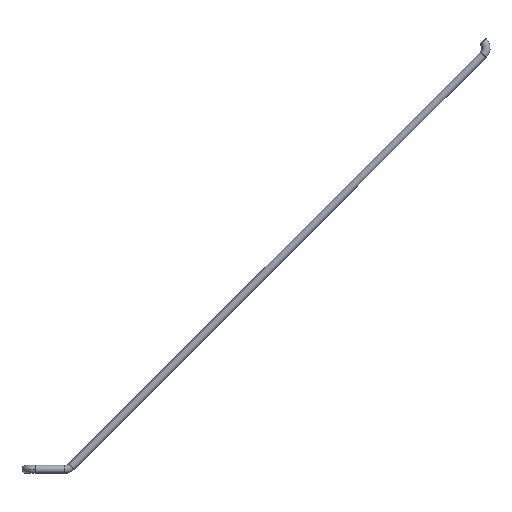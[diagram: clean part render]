
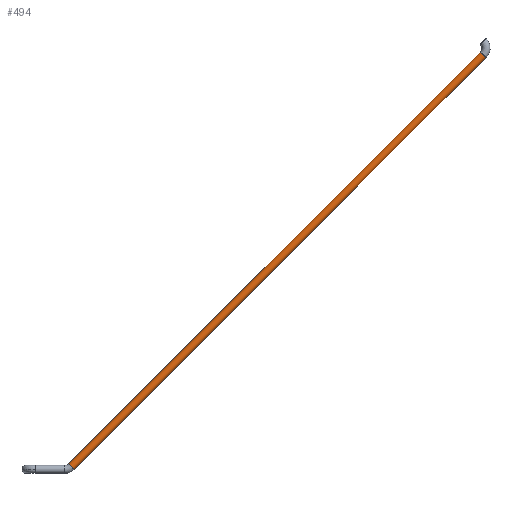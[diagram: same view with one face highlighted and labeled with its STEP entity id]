
A CAD part, front view. The second image highlights one B-rep face of the part: STEP entity #494.
In plain terms, the highlighted cylindrical face has radius 24.15 mm (diameter 48.3 mm), a partial arc.
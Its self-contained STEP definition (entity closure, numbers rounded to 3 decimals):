
#12 = CARTESIAN_POINT ( 'NONE',  ( 13735.297, 1038.5, -1003.9 ) ) ;
#29 = ORIENTED_EDGE ( 'NONE', *, *, #671, .T. ) ;
#64 = CIRCLE ( 'NONE', #556, 24.15 ) ;
#122 = DIRECTION ( 'NONE',  ( 0.707, 0., 0.707 ) ) ;
#151 = EDGE_CURVE ( 'NONE', #447, #581, #414, .T. ) ;
#162 = DIRECTION ( 'NONE',  ( 0.707, 0., -0.707 ) ) ;
#172 = LINE ( 'NONE', #894, #304 ) ;
#174 = VECTOR ( 'NONE', #253, 1000. ) ;
#185 = EDGE_CURVE ( 'NONE', #388, #280, #172, .T. ) ;
#215 = DIRECTION ( 'NONE',  ( 0.707, 0., -0.707 ) ) ;
#253 = DIRECTION ( 'NONE',  ( -0.707, 0., -0.707 ) ) ;
#280 = VERTEX_POINT ( 'NONE', #521 ) ;
#281 = DIRECTION ( 'NONE',  ( 0.707, 0., 0.707 ) ) ;
#304 = VECTOR ( 'NONE', #960, 1000. ) ;
#360 = EDGE_CURVE ( 'NONE', #388, #447, #64, .T. ) ;
#369 = CARTESIAN_POINT ( 'NONE',  ( 11294.195, 1038.5, -3479.155 ) ) ;
#388 = VERTEX_POINT ( 'NONE', #12 ) ;
#414 = LINE ( 'NONE', #595, #174 ) ;
#430 = DIRECTION ( 'NONE',  ( 0.707, 0., -0.707 ) ) ;
#447 = VERTEX_POINT ( 'NONE', #636 ) ;
#452 = ORIENTED_EDGE ( 'NONE', *, *, #185, .T. ) ;
#485 = AXIS2_PLACEMENT_3D ( 'NONE', #369, #281, #215 ) ;
#494 = ADVANCED_FACE ( 'NONE', ( #552 ), #720, .T. ) ;
#509 = CARTESIAN_POINT ( 'NONE',  ( 13752.374, 1038.5, -1020.976 ) ) ;
#521 = CARTESIAN_POINT ( 'NONE',  ( 11277.118, 1038.5, -3462.078 ) ) ;
#525 = ORIENTED_EDGE ( 'NONE', *, *, #151, .F. ) ;
#552 = FACE_OUTER_BOUND ( 'NONE', #621, .T. ) ;
#556 = AXIS2_PLACEMENT_3D ( 'NONE', #509, #122, #430 ) ;
#581 = VERTEX_POINT ( 'NONE', #586 ) ;
#586 = CARTESIAN_POINT ( 'NONE',  ( 11311.272, 1038.5, -3496.232 ) ) ;
#595 = CARTESIAN_POINT ( 'NONE',  ( 13769.45, 1038.5, -1038.053 ) ) ;
#621 = EDGE_LOOP ( 'NONE', ( #969, #452, #29, #525 ) ) ;
#636 = CARTESIAN_POINT ( 'NONE',  ( 13769.45, 1038.5, -1038.053 ) ) ;
#671 = EDGE_CURVE ( 'NONE', #280, #581, #850, .T. ) ;
#720 = CYLINDRICAL_SURFACE ( 'NONE', #817, 24.15 ) ;
#817 = AXIS2_PLACEMENT_3D ( 'NONE', #948, #864, #162 ) ;
#850 = CIRCLE ( 'NONE', #485, 24.15 ) ;
#864 = DIRECTION ( 'NONE',  ( -0.707, 0., -0.707 ) ) ;
#894 = CARTESIAN_POINT ( 'NONE',  ( 13735.297, 1038.5, -1003.9 ) ) ;
#948 = CARTESIAN_POINT ( 'NONE',  ( 13752.374, 1038.5, -1020.976 ) ) ;
#960 = DIRECTION ( 'NONE',  ( -0.707, 0., -0.707 ) ) ;
#969 = ORIENTED_EDGE ( 'NONE', *, *, #360, .F. ) ;
